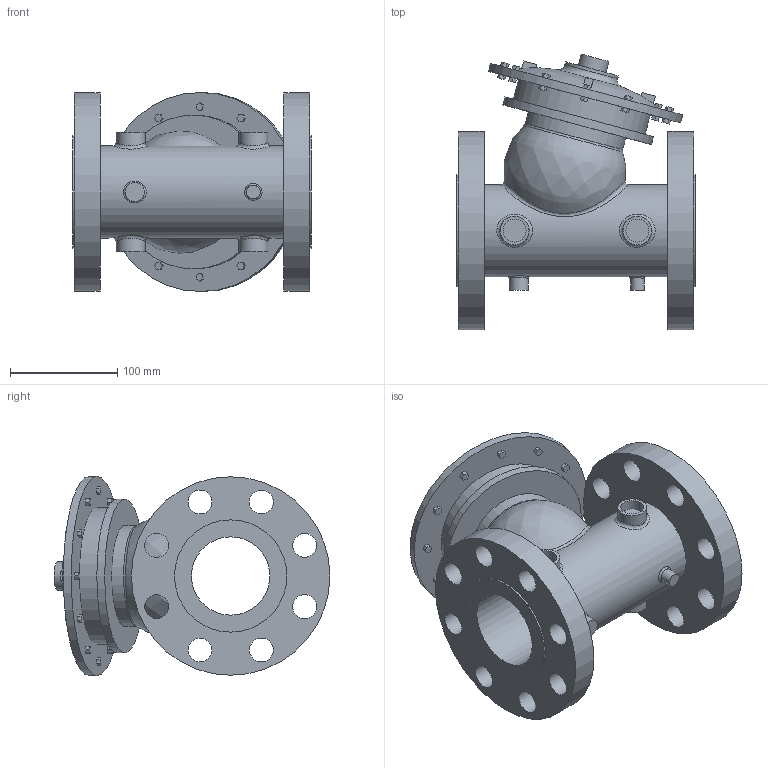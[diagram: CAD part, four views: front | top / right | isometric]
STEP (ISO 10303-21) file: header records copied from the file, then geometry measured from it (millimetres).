
FILE_DESCRIPTION(/* description */ ('VIC FP VALVE PRESSURE RELIEF SERIES 867-7UF (FLG 300)','CAx-IF Rec.Pracs.---Representation and Presentation of Product Manufacturing Information (PMI)---4.0---2014-10-13'),/* implementation_level */ '2;1');
FILE_NAME(/* name */ 'C:\Series 867-7UF\Series 867-7UF final\Victaulic_FP-Bermad_Valve Pressure Relief_Series 867-7UF (FLG 300)\Victaulic_FP-Bermad_Valve Pressure Relief_Series 867-7UF (FLG 300)_2.5 (65).stp',/* time_stamp */ '2021-09-02T16:53:04+05:00',/* author */ ('kkamble'),/* organization */ ('Victaulic'),/* preprocessor_version */ 'ST-DEVELOPER v17.2',/* originating_system */ 'Autodesk Inventor 2019',/* authorisation */ '');
FILE_SCHEMA (('AP242_MANAGED_MODEL_BASED_3D_ENGINEERING_MIM_LF { 1 0 10303 442 1 1 4 }'));
Length unit declared in the file: inch
Products named in the file (1): 867-7UF-02.5
Bounding box: 222 x 257 x 185.42 mm (x, y, z)
Volume: 2527564.7 mm3; surface area: 326836 mm2
Topology: 1 solids, 1 shells, 259 faces, 661 edges, 449 vertices
Faces by surface type: plane 210, cylinder 38, bspline 9, torus 2
Full cylindrical faces by diameter (mm): 12.7 x1, 17.78 x1, 21.336 x4, 22.225 x16, 26.67 x1, 26.873 x4, 50.8 x1, 73.025 x1, 85.725 x1, 93.98 x1, 104.648 x2, 127 x1, 143.256 x1, 184.912 x2, 185.42 x1
Entity records: 9389 total; most frequent: CARTESIAN_POINT 2584, ORIENTED_EDGE 1334, DIRECTION 1260, EDGE_CURVE 667, LINE 510, VECTOR 510, VERTEX_POINT 455, AXIS2_PLACEMENT_3D 375
